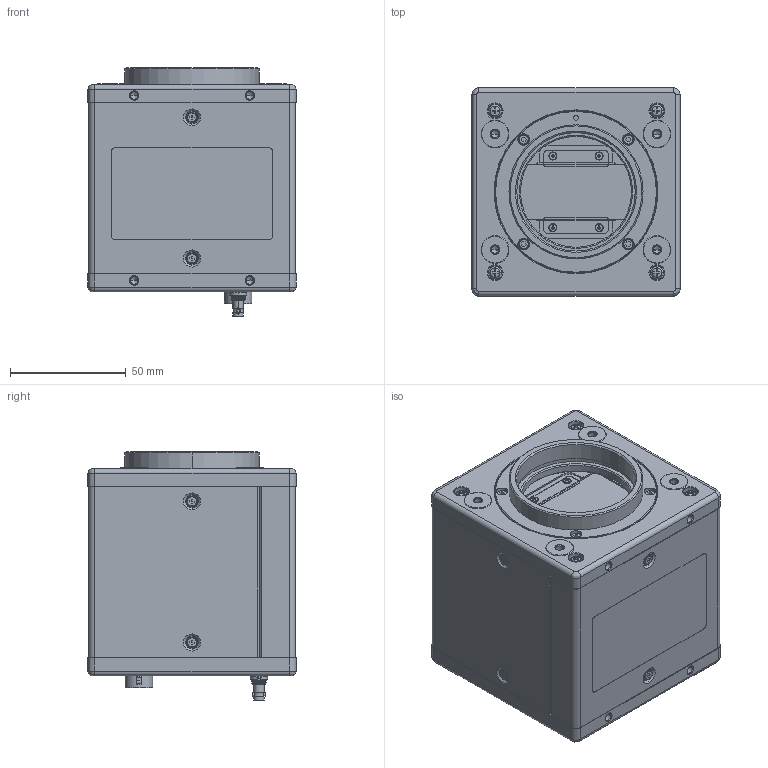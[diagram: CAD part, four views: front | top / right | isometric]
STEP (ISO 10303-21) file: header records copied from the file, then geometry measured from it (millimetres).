
FILE_DESCRIPTION((''),'2;1');
FILE_NAME('SW-4000T-CXPA-M52_MOCK','2025-12-22T15:42:37',('aso'),(''),'CREO PARAMETRIC BY PTC INC, 2025323','CREO PARAMETRIC BY PTC INC, 2025323','');
FILE_SCHEMA(('AUTOMOTIVE_DESIGN { 1 0 10303 214 1 1 1 1 }'));
Products named in the file (1): SW-4000T-CXPA-M52_MOCK
Bounding box: 90 x 90 x 107.5 mm (x, y, z)
Volume: 706385.3 mm3; surface area: 62988 mm2
Topology: 2 solids, 19 shells, 1305 faces, 3468 edges, 2239 vertices
Faces by surface type: plane 635, cylinder 431, cone 139, torus 50, sphere 28, bspline 22
Entity records: 58067 total; most frequent: CARTESIAN_POINT 15614, ORIENTED_EDGE 6786, DIRECTION 6781, EDGE_CURVE 3418, AXIS2_PLACEMENT_3D 2445, VERTEX_POINT 2239, VECTOR 1891, LINE 1891
